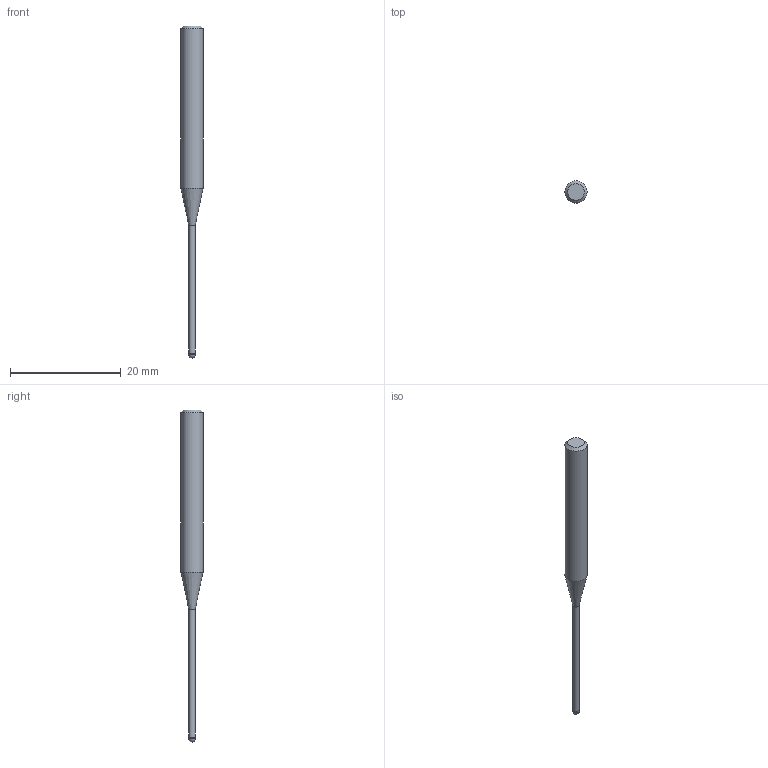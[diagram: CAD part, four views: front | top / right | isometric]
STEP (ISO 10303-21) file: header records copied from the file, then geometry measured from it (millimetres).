
FILE_DESCRIPTION((''),'2;1');
FILE_NAME('C:\Users\nsx150\AppData\Local\Temp\Mastercam 2021\3SYKECWX22\TEMP.step','2021-04-22T10:03:05',(''),(''),'STEP Write','Mastercam 2021 ... CNC Software, Inc.','');
FILE_SCHEMA(('AUTOMOTIVE_DESIGN'));
Length unit declared in the file: millimetre
Products named in the file (1): None
Bounding box: 4 x 4 x 60 mm (x, y, z)
Volume: 430 mm3; surface area: 521.2 mm2
Topology: 2 solids, 2 shells, 9 faces, 14 edges, 8 vertices
Faces by surface type: plane 3, cylinder 3, cone 2, sphere 1
Full cylindrical faces by diameter (mm): 1.15 x1, 1.2 x1, 4 x1
Entity records: 211 total; most frequent: DIRECTION 36, CARTESIAN_POINT 25, AXIS2_PLACEMENT_3D 18, ORIENTED_EDGE 14, EDGE_LOOP 14, STYLED_ITEM 12, ADVANCED_FACE 9, FACE_BOUND 8
